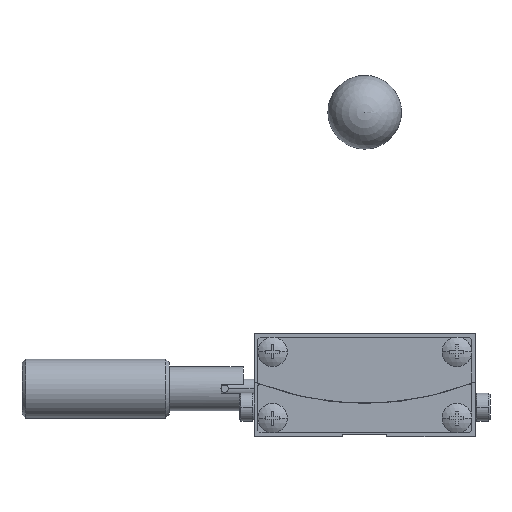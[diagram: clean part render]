
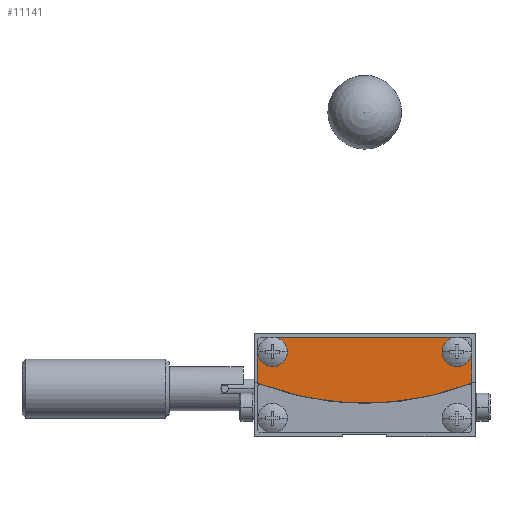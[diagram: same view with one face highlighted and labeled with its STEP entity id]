
A CAD part, front view. The second image highlights one B-rep face of the part: STEP entity #11141.
In plain terms, the highlighted planar face has unit normal (0, -1, 0) as drawn and (-1, 0, 0) by its records, which use the part's own axes.
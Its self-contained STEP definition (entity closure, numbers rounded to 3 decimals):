
#4888 = DIRECTION ( 'NONE',  ( 0., -1., 0. ) ) ;
#4889 = DIRECTION ( 'NONE',  ( -1., 0., 0. ) ) ;
#4890 = CARTESIAN_POINT ( 'NONE',  ( -15.5, 0., 30. ) ) ;
#4891 = AXIS2_PLACEMENT_3D ( 'NONE', #4890, #4889, #4888 ) ;
#4892 = CIRCLE ( 'NONE', #4891, 39.5 ) ;
#4894 = CARTESIAN_POINT ( 'NONE',  ( -15.5, 14.5, -6.742 ) ) ;
#5989 = EDGE_CURVE ( 'NONE', #5990, #5991, #12232, .T. ) ;
#5990 = VERTEX_POINT ( 'NONE', #12223 ) ;
#5991 = VERTEX_POINT ( 'NONE', #12222 ) ;
#8535 = VERTEX_POINT ( 'NONE', #4894 ) ;
#8539 = EDGE_CURVE ( 'NONE', #8535, #5990, #4892, .T. ) ;
#11045 = EDGE_CURVE ( 'NONE', #5991, #11046, #15458, .T. ) ;
#11046 = VERTEX_POINT ( 'NONE', #15454 ) ;
#11047 = ORIENTED_EDGE ( 'NONE', *, *, #11048, .F. ) ;
#11048 = EDGE_CURVE ( 'NONE', #19746, #11046, #15452, .T. ) ;
#11119 = ORIENTED_EDGE ( 'NONE', *, *, #11120, .F. ) ;
#11120 = EDGE_CURVE ( 'NONE', #19725, #19585, #15663, .T. ) ;
#11121 = ORIENTED_EDGE ( 'NONE', *, *, #19723, .F. ) ;
#11122 = ORIENTED_EDGE ( 'NONE', *, *, #11123, .T. ) ;
#11123 = EDGE_CURVE ( 'NONE', #19724, #8535, #15658, .T. ) ;
#11124 = ORIENTED_EDGE ( 'NONE', *, *, #8539, .T. ) ;
#11125 = ORIENTED_EDGE ( 'NONE', *, *, #5989, .T. ) ;
#11126 = ORIENTED_EDGE ( 'NONE', *, *, #11045, .T. ) ;
#11141 = ADVANCED_FACE ( 'NONE', ( #15795 ), #15790, .T. ) ;
#11142 = EDGE_LOOP ( 'NONE', ( #11143, #11144, #11119, #11121, #11122, #11124, #11125, #11126, #11047 ) ) ;
#11143 = ORIENTED_EDGE ( 'NONE', *, *, #19744, .F. ) ;
#11144 = ORIENTED_EDGE ( 'NONE', *, *, #11145, .T. ) ;
#11145 = EDGE_CURVE ( 'NONE', #19745, #19585, #15788, .T. ) ;
#12222 = CARTESIAN_POINT ( 'NONE',  ( -15.5, -14.5, -6.742 ) ) ;
#12223 = CARTESIAN_POINT ( 'NONE',  ( -15.5, 0., -9.5 ) ) ;
#12224 = DIRECTION ( 'NONE',  ( 0., -1., 0. ) ) ;
#12225 = DIRECTION ( 'NONE',  ( -1., 0., 0. ) ) ;
#12226 = CARTESIAN_POINT ( 'NONE',  ( -15.5, 0., 30. ) ) ;
#12227 = AXIS2_PLACEMENT_3D ( 'NONE', #12226, #12225, #12224 ) ;
#12232 = CIRCLE ( 'NONE', #12227, 39.5 ) ;
#15399 = DIRECTION ( 'NONE',  ( 0., 0., 1. ) ) ;
#15400 = DIRECTION ( 'NONE',  ( -1., 0., 0. ) ) ;
#15401 = CARTESIAN_POINT ( 'NONE',  ( -15.5, -12.5, -2.5 ) ) ;
#15402 = AXIS2_PLACEMENT_3D ( 'NONE', #15401, #15400, #15399 ) ;
#15452 = CIRCLE ( 'NONE', #15402, 2. ) ;
#15454 = CARTESIAN_POINT ( 'NONE',  ( -15.5, -14.5, -2.5 ) ) ;
#15455 = DIRECTION ( 'NONE',  ( 0., 0., 1. ) ) ;
#15456 = VECTOR ( 'NONE', #15455, 1000. ) ;
#15457 = CARTESIAN_POINT ( 'NONE',  ( -15.5, -14.5, -6.742 ) ) ;
#15458 = LINE ( 'NONE', #15457, #15456 ) ;
#15655 = DIRECTION ( 'NONE',  ( 0., 0., -1. ) ) ;
#15656 = VECTOR ( 'NONE', #15655, 1000. ) ;
#15657 = CARTESIAN_POINT ( 'NONE',  ( -15.5, 14.5, -0.8 ) ) ;
#15658 = LINE ( 'NONE', #15657, #15656 ) ;
#15659 = DIRECTION ( 'NONE',  ( 0., 0., 1. ) ) ;
#15660 = DIRECTION ( 'NONE',  ( -1., 0., 0. ) ) ;
#15661 = CARTESIAN_POINT ( 'NONE',  ( -15.5, 12.5, -2.5 ) ) ;
#15662 = AXIS2_PLACEMENT_3D ( 'NONE', #15661, #15660, #15659 ) ;
#15663 = CIRCLE ( 'NONE', #15662, 2. ) ;
#15782 = DIRECTION ( 'NONE',  ( 0., 1., 0. ) ) ;
#15783 = VECTOR ( 'NONE', #15782, 1000. ) ;
#15784 = CARTESIAN_POINT ( 'NONE',  ( -15.5, -14.2, -0.5 ) ) ;
#15785 = DIRECTION ( 'NONE',  ( 0., -1., 0. ) ) ;
#15786 = DIRECTION ( 'NONE',  ( -1., 0., 0. ) ) ;
#15787 = AXIS2_PLACEMENT_3D ( 'NONE', #15789, #15786, #15785 ) ;
#15788 = LINE ( 'NONE', #15784, #15783 ) ;
#15789 = CARTESIAN_POINT ( 'NONE',  ( -15.5, 0., 30. ) ) ;
#15790 = PLANE ( 'NONE',  #15787 ) ;
#15795 = FACE_OUTER_BOUND ( 'NONE', #11142, .T. ) ;
#17769 = CARTESIAN_POINT ( 'NONE',  ( -15.5, 12.5, -0.5 ) ) ;
#18321 = CARTESIAN_POINT ( 'NONE',  ( -15.5, 12.5, -4.5 ) ) ;
#18322 = CARTESIAN_POINT ( 'NONE',  ( -15.5, 14.5, -2.5 ) ) ;
#18387 = CARTESIAN_POINT ( 'NONE',  ( -15.5, -12.5, -4.5 ) ) ;
#18388 = CARTESIAN_POINT ( 'NONE',  ( -15.5, -12.5, -0.5 ) ) ;
#18389 = DIRECTION ( 'NONE',  ( 0., 0., 1. ) ) ;
#18390 = DIRECTION ( 'NONE',  ( -1., 0., 0. ) ) ;
#18391 = CARTESIAN_POINT ( 'NONE',  ( -15.5, -12.5, -2.5 ) ) ;
#18392 = AXIS2_PLACEMENT_3D ( 'NONE', #18391, #18390, #18389 ) ;
#18393 = CIRCLE ( 'NONE', #18392, 2. ) ;
#18400 = DIRECTION ( 'NONE',  ( 0., 0., 1. ) ) ;
#18401 = DIRECTION ( 'NONE',  ( -1., 0., 0. ) ) ;
#18402 = CARTESIAN_POINT ( 'NONE',  ( -15.5, 12.5, -2.5 ) ) ;
#18403 = AXIS2_PLACEMENT_3D ( 'NONE', #18402, #18401, #18400 ) ;
#18404 = CIRCLE ( 'NONE', #18403, 2. ) ;
#19585 = VERTEX_POINT ( 'NONE', #17769 ) ;
#19723 = EDGE_CURVE ( 'NONE', #19724, #19725, #18404, .T. ) ;
#19724 = VERTEX_POINT ( 'NONE', #18322 ) ;
#19725 = VERTEX_POINT ( 'NONE', #18321 ) ;
#19744 = EDGE_CURVE ( 'NONE', #19745, #19746, #18393, .T. ) ;
#19745 = VERTEX_POINT ( 'NONE', #18388 ) ;
#19746 = VERTEX_POINT ( 'NONE', #18387 ) ;
